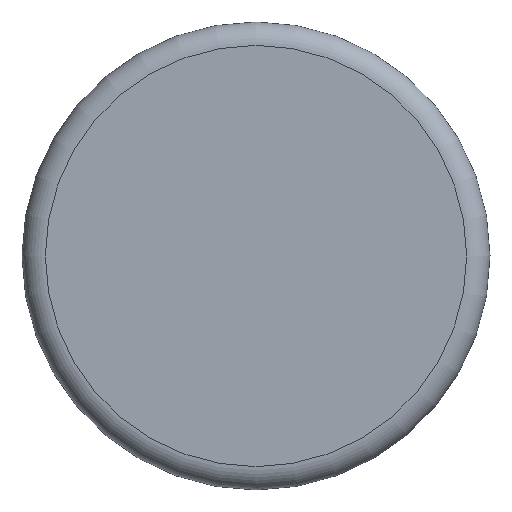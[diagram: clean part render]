
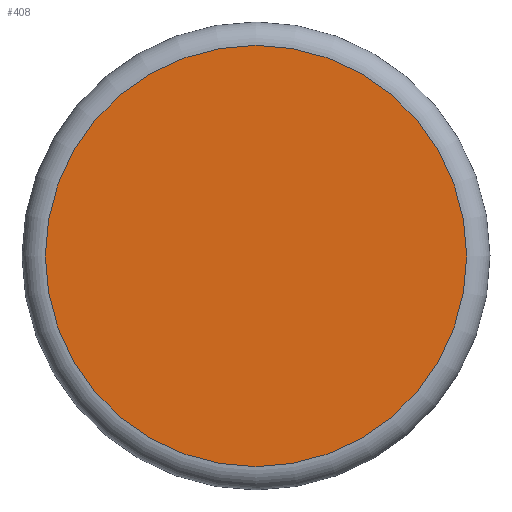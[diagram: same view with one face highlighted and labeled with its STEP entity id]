
A CAD part, front view. The second image highlights one B-rep face of the part: STEP entity #408.
In plain terms, the highlighted planar face has unit normal (0, -1, 0).
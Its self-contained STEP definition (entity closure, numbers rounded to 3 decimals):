
#228=CARTESIAN_POINT('',(0.,0.0,22.5));
#229=VERTEX_POINT('',#228);
#230=CARTESIAN_POINT('',(0.,0.0,0.0));
#231=DIRECTION('',(0.0,1.0,0.0));
#232=DIRECTION('',(0.0,0.0,1.0));
#233=AXIS2_PLACEMENT_3D('',#230,#231,#232);
#234=CIRCLE('',#233,22.5);
#235=EDGE_CURVE('',#229,#229,#234,.T.);
#400=CARTESIAN_POINT('',(0.0,0.0,0.0));
#401=DIRECTION('',(0.0,1.0,0.0));
#402=DIRECTION('',(0.0,0.0,1.0));
#403=AXIS2_PLACEMENT_3D('',#400,#401,#402);
#404=PLANE('',#403);
#405=ORIENTED_EDGE('',*,*,#235,.F.);
#406=EDGE_LOOP('',(#405));
#407=FACE_OUTER_BOUND('',#406,.T.);
#408=ADVANCED_FACE('',(#407),#404,.F.);
